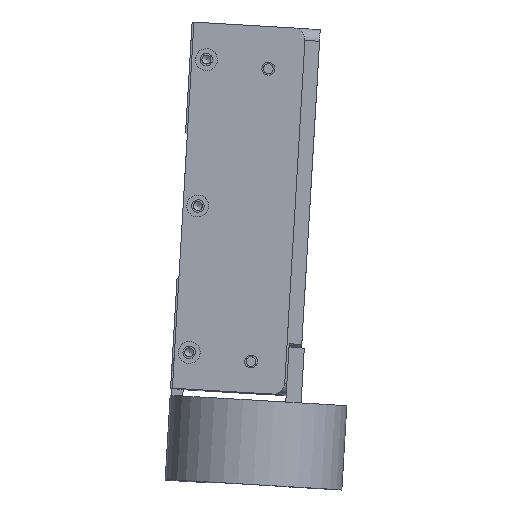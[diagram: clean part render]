
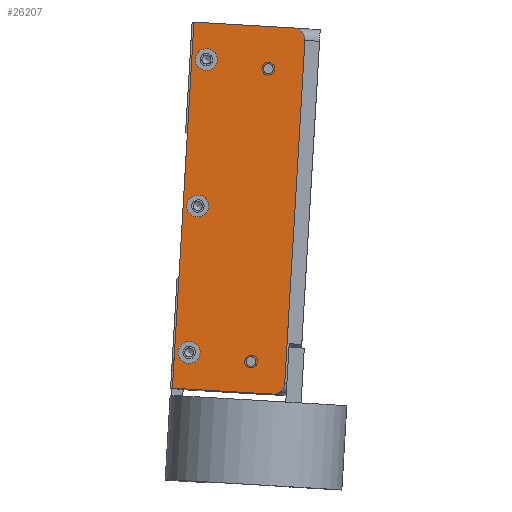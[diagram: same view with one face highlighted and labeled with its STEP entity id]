
A CAD part, top view. The second image highlights one B-rep face of the part: STEP entity #26207.
In plain terms, the highlighted planar face has unit normal (0, 0, 1) as drawn and (0, -1, 0) by its records, which use the part's own axes.
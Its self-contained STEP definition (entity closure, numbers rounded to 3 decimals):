
#716=PLANE($,#28287);
#1597=FACE_BOUND($,#4246,.T.);
#1598=FACE_BOUND($,#4247,.T.);
#1599=FACE_BOUND($,#4248,.T.);
#1600=FACE_BOUND($,#4249,.T.);
#1601=FACE_BOUND($,#4250,.T.);
#1602=FACE_BOUND($,#4251,.T.);
#4246=EDGE_LOOP($,(#20543));
#4247=EDGE_LOOP($,(#20544));
#4248=EDGE_LOOP($,(#20545));
#4249=EDGE_LOOP($,(#20546));
#4250=EDGE_LOOP($,(#20547));
#4251=EDGE_LOOP($,(#20548,#20549,#20550,#20551,#20552,#20553));
#6312=LINE($,#40887,#8803);
#6315=LINE($,#40903,#8806);
#6316=LINE($,#40905,#8807);
#6317=LINE($,#40907,#8808);
#8803=VECTOR($,#32764,93.65);
#8806=VECTOR($,#32779,27.325);
#8807=VECTOR($,#32780,100.);
#8808=VECTOR($,#32781,27.325);
#11100=CIRCLE($,#28284,3.175);
#11102=CIRCLE($,#28288,3.);
#11103=CIRCLE($,#28289,3.);
#11104=CIRCLE($,#28290,3.);
#11105=CIRCLE($,#28291,1.321);
#11106=CIRCLE($,#28292,1.321);
#11107=CIRCLE($,#28293,3.175);
#12521=VERTEX_POINT($,#40877);
#12522=VERTEX_POINT($,#40878);
#12525=VERTEX_POINT($,#40886);
#12527=VERTEX_POINT($,#40892);
#12528=VERTEX_POINT($,#40894);
#12529=VERTEX_POINT($,#40896);
#12530=VERTEX_POINT($,#40898);
#12531=VERTEX_POINT($,#40900);
#12532=VERTEX_POINT($,#40902);
#12533=VERTEX_POINT($,#40904);
#12534=VERTEX_POINT($,#40906);
#15502=EDGE_CURVE($,#12521,#12522,#11100,.T.);
#15506=EDGE_CURVE($,#12522,#12525,#6312,.T.);
#15509=EDGE_CURVE($,#12527,#12527,#11102,.T.);
#15510=EDGE_CURVE($,#12528,#12528,#11103,.T.);
#15511=EDGE_CURVE($,#12529,#12529,#11104,.T.);
#15512=EDGE_CURVE($,#12530,#12530,#11105,.T.);
#15513=EDGE_CURVE($,#12531,#12531,#11106,.T.);
#15514=EDGE_CURVE($,#12521,#12532,#6315,.T.);
#15515=EDGE_CURVE($,#12532,#12533,#6316,.T.);
#15516=EDGE_CURVE($,#12533,#12534,#6317,.T.);
#15517=EDGE_CURVE($,#12525,#12534,#11107,.T.);
#20543=ORIENTED_EDGE($,*,*,#15509,.T.);
#20544=ORIENTED_EDGE($,*,*,#15510,.T.);
#20545=ORIENTED_EDGE($,*,*,#15511,.T.);
#20546=ORIENTED_EDGE($,*,*,#15512,.T.);
#20547=ORIENTED_EDGE($,*,*,#15513,.T.);
#20548=ORIENTED_EDGE($,*,*,#15502,.F.);
#20549=ORIENTED_EDGE($,*,*,#15514,.T.);
#20550=ORIENTED_EDGE($,*,*,#15515,.T.);
#20551=ORIENTED_EDGE($,*,*,#15516,.T.);
#20552=ORIENTED_EDGE($,*,*,#15517,.F.);
#20553=ORIENTED_EDGE($,*,*,#15506,.F.);
#26207=ADVANCED_FACE($,(#1597,#1598,#1599,#1600,#1601,#1602),#716,.T.);
#28284=AXIS2_PLACEMENT_3D($,#40879,#32756,#32757);
#28287=AXIS2_PLACEMENT_3D($,#40891,#32767,#32768);
#28288=AXIS2_PLACEMENT_3D($,#40893,#32769,#32770);
#28289=AXIS2_PLACEMENT_3D($,#40895,#32771,#32772);
#28290=AXIS2_PLACEMENT_3D($,#40897,#32773,#32774);
#28291=AXIS2_PLACEMENT_3D($,#40899,#32775,#32776);
#28292=AXIS2_PLACEMENT_3D($,#40901,#32777,#32778);
#28293=AXIS2_PLACEMENT_3D($,#40908,#32782,#32783);
#32756=DIRECTION('center_axis',(0.,1.,0.));
#32757=DIRECTION('ref_axis',(0.707,0.,0.707));
#32764=DIRECTION($,(0.,0.,-1.));
#32767=DIRECTION('center_axis',(0.,-1.,0.));
#32768=DIRECTION('ref_axis',(0.,0.,-1.));
#32769=DIRECTION('center_axis',(0.,1.,0.));
#32770=DIRECTION('ref_axis',(1.,0.,0.));
#32771=DIRECTION('center_axis',(0.,1.,0.));
#32772=DIRECTION('ref_axis',(1.,0.,0.));
#32773=DIRECTION('center_axis',(0.,1.,0.));
#32774=DIRECTION('ref_axis',(1.,0.,0.));
#32775=DIRECTION('center_axis',(0.,1.,0.));
#32776=DIRECTION('ref_axis',(1.,0.,0.));
#32777=DIRECTION('center_axis',(0.,1.,0.));
#32778=DIRECTION('ref_axis',(1.,0.,0.));
#32779=DIRECTION($,(-1.,0.,0.));
#32780=DIRECTION($,(0.,0.,-1.));
#32781=DIRECTION($,(1.,0.,0.));
#32782=DIRECTION('center_axis',(0.,1.,0.));
#32783=DIRECTION('ref_axis',(0.707,0.,-0.707));
#40877=CARTESIAN_POINT('',(12.075,-2.5,50.));
#40878=CARTESIAN_POINT('',(15.25,-2.5,46.825));
#40879=CARTESIAN_POINT('Origin',(12.075,-2.5,46.825));
#40886=CARTESIAN_POINT('',(15.25,-2.5,-46.825));
#40887=CARTESIAN_POINT($,(15.25,-2.5,0.));
#40891=CARTESIAN_POINT('Origin',(15.25,-2.5,0.));
#40892=CARTESIAN_POINT('',(-8.25,-2.5,0.));
#40893=CARTESIAN_POINT('Origin',(-11.25,-2.5,0.));
#40894=CARTESIAN_POINT('',(-8.25,-2.5,40.));
#40895=CARTESIAN_POINT('Origin',(-11.25,-2.5,40.));
#40896=CARTESIAN_POINT('',(-8.25,-2.5,-40.));
#40897=CARTESIAN_POINT('Origin',(-11.25,-2.5,-40.));
#40898=CARTESIAN_POINT('',(7.071,-2.5,38.5));
#40899=CARTESIAN_POINT('Origin',(5.75,-2.5,38.5));
#40900=CARTESIAN_POINT('',(7.037,-2.5,-41.5));
#40901=CARTESIAN_POINT('Origin',(5.716,-2.5,-41.5));
#40902=CARTESIAN_POINT('',(-15.25,-2.5,50.));
#40903=CARTESIAN_POINT($,(15.25,-2.5,50.));
#40904=CARTESIAN_POINT('',(-15.25,-2.5,-50.));
#40905=CARTESIAN_POINT($,(-15.25,-2.5,0.));
#40906=CARTESIAN_POINT('',(12.075,-2.5,-50.));
#40907=CARTESIAN_POINT($,(15.25,-2.5,-50.));
#40908=CARTESIAN_POINT('Origin',(12.075,-2.5,-46.825));
